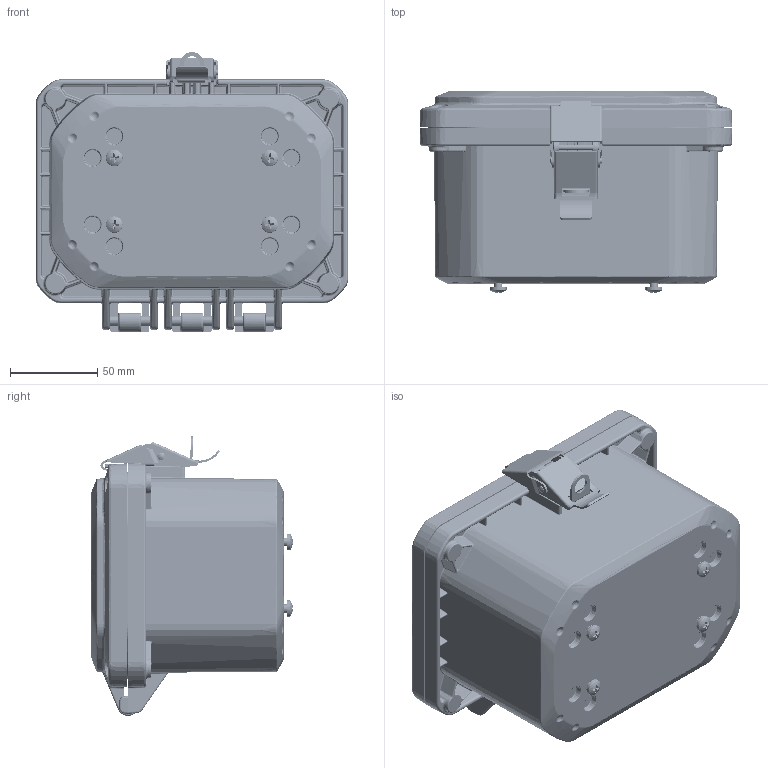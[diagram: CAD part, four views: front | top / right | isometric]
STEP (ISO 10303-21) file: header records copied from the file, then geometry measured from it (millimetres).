
FILE_DESCRIPTION (( 'STEP AP214' ), '1' );
FILE_NAME ('ZH-060404-90.STEP', '2024-10-25T16:30:55', ( '' ), ( '' ), 'SwSTEP 2.0', 'SolidWorks 2024', '' );
FILE_SCHEMA (( 'AUTOMOTIVE_DESIGN' ));
Length unit declared in the file: inch
Products named in the file (16): INSERTS-4; Z_-06043B_ZH-06043B-01; ZH-01L1; Z_-06041C_ZH-06041C-01; ZH-95P_DEFAULT; Z_-06041CG_ZH-06041CG-01; ZH-01L4; ZH-01L; ZH-060404-90; ZH-0604G; SCREWS-049_SCREWS-049; LABEL-104; ZH-01L2; Z_-06043BI_ZH-06043BI-01; ZH-01L5; ZH-01L3
Assembly tree (32 placements, depth 3):
  ZH-060404-90
    Z_-06043BI_ZH-06043BI-01
      Z_-06043B_ZH-06043B-01
      INSERTS-4  x12
      LABEL-104
    Z_-06041CG_ZH-06041CG-01
      Z_-06041C_ZH-06041C-01
      ZH-0604G
    ZH-95P_DEFAULT  x4
    ZH-01L
      ZH-01L1
      ZH-01L2
      ZH-01L3
      ZH-01L4
      ZH-01L5
    SCREWS-049_SCREWS-049  x4
Bounding box: 178.82 x 115.3 x 159.98 mm (x, y, z)
Volume: 473782.6 mm3; surface area: 278794.6 mm2
Topology: 33 solids, 33 shells, 6039 faces, 14710 edges, 8702 vertices
Faces by surface type: bspline 1895, plane 1396, cylinder 1154, torus 712, cone 636, sphere 246
Entity records: 214937 total; most frequent: CARTESIAN_POINT 121751, ORIENTED_EDGE 21434, DIRECTION 17233, EDGE_CURVE 10717, AXIS2_PLACEMENT_3D 7233, VERTEX_POINT 6243, EDGE_LOOP 4694, ADVANCED_FACE 4574
